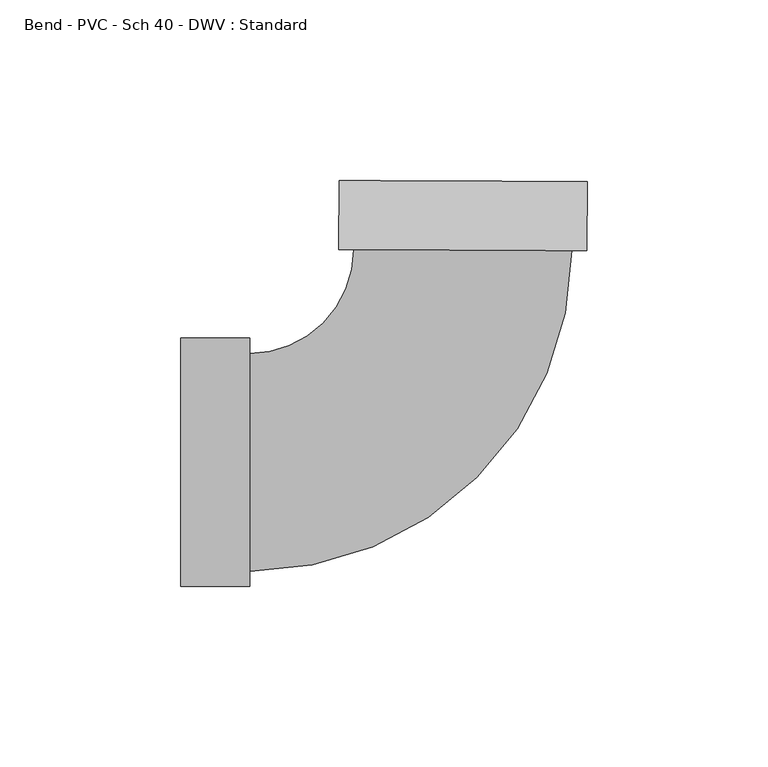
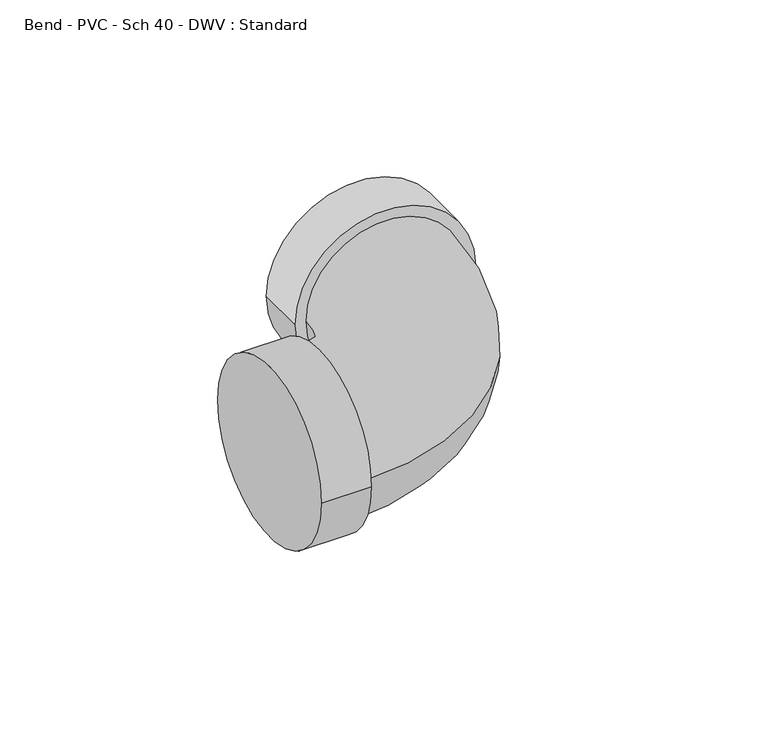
"""IFC4 building model written with IfcOpenShell, lengths in millimetres: pipe fitting geometry, Bend - PVC - Sch 40 - DWV : Standard."""

from ifc_helpers import new_model, si_unit, point, frame, origin, place, context, project, spatial, circle_curve, ellipse_curve, trimmed, source, transform, mapped, element, save
from ifc_brep_helpers import plane_surface, cylinder_surface, revolved_surface, advanced_brep


def bend_pvc_sch_40_dwv_standard_6afe43e3(model_context):
    return source(origin(), model_context, "Body", "AdvancedBrep", [
        advanced_brep(
        [(-77.8002, -34.3154, 0.0), (-77.8002, 34.3154, 0.0), (-58.7502, -34.3154, 0.0), (-58.7502, 34.3154, 0.0), (-58.7502, -30.1625, 0.0), (-58.7502, 30.1625, 0.0), (-29.8812336, 58.8937542, 0.0), (30.4430768, 58.6053025, 0.0), (34.5959293, 58.5854449, 0.0), (-34.0340861, 58.9136119, 0.0), (34.6870193, 77.6352271, 0.0), (-33.9429961, 77.9633941, 0.0)],
        [
            (0, 1, circle_curve(frame((-77.8002, 0.0, 0.0), z_axis=(-1.0, 0.0, 0.0), x_axis=(0.0, 1.0, 0.0)), 34.3154)),
            (1, 0, circle_curve(frame((-77.8002, 0.0, 0.0), z_axis=(-1.0, 0.0, 0.0), x_axis=(0.0, 1.0, 0.0)), 34.3154)),
            (2, 3, circle_curve(frame((-58.7502, 0.0, 0.0), z_axis=(1.0, 0.0, 0.0), x_axis=(0.0, 1.0, 0.0)), 34.3154)),
            (3, 2, circle_curve(frame((-58.7502, 0.0, 0.0), z_axis=(1.0, 0.0, 0.0), x_axis=(0.0, 1.0, 0.0)), 34.3154)),
            (4, 5, circle_curve(frame((-58.7502, 0.0, 0.0), z_axis=(-1.0, 0.0, 0.0), x_axis=(0.0, 1.0, 0.0)), 30.1625)),
            (5, 4, circle_curve(frame((-58.7502, 0.0, 0.0), z_axis=(-1.0, 0.0, 0.0), x_axis=(0.0, 1.0, 0.0)), 30.1625)),
            (0, 2),
            (3, 1),
            (6, 5, circle_curve(frame((-58.7502, 59.0317965, 0.0), z_axis=(0.0, 0.0, -1.0), x_axis=(0.0, -1.0, 0.0)), 28.8692965)),
            (4, 7, circle_curve(frame((-58.7502, 59.0317965, 0.0), z_axis=(0.0, 0.0, 1.0), x_axis=(0.0, -1.0, 0.0)), 89.1942965)),
            (7, 6, circle_curve(frame((0.2809216, 58.7495284, 0.0), z_axis=(-0.004781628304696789, -0.999988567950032, 0.0), x_axis=(-0.999988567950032, 0.004781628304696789, 0.0)), 30.1625)),
            (6, 7, circle_curve(frame((0.2809216, 58.7495284, 0.0), z_axis=(-0.004781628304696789, -0.999988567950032, 0.0), x_axis=(-0.999988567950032, 0.004781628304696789, 0.0)), 30.1625)),
            (8, 9, circle_curve(frame((0.2809216, 58.7495284, 0.0), z_axis=(-0.004781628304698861, -0.999988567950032, 0.0), x_axis=(-0.999988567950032, 0.004781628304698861, 0.0)), 34.3154)),
            (9, 8, circle_curve(frame((0.2809216, 58.7495284, 0.0), z_axis=(-0.004781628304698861, -0.999988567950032, 0.0), x_axis=(-0.999988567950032, 0.004781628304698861, 0.0)), 34.3154)),
            (10, 11, circle_curve(frame((0.3720116, 77.7993106, 0.0), z_axis=(0.004781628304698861, 0.999988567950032, 0.0), x_axis=(-0.999988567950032, 0.004781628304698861, 0.0)), 34.3154)),
            (11, 10, circle_curve(frame((0.3720116, 77.7993106, 0.0), z_axis=(0.004781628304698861, 0.999988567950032, 0.0), x_axis=(-0.999988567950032, 0.004781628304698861, 0.0)), 34.3154)),
            (8, 10),
            (11, 9),
        ],
        [
            plane_surface(frame((-77.8002, 0.0, 0.0), z_axis=(-1.0, 0.0, 0.0), x_axis=(0.0, 0.0, 1.0))),
            plane_surface(frame((-58.7502, 0.0, 0.0), z_axis=(1.0, 0.0, 0.0), x_axis=(0.0, 0.0, 1.0))),
            cylinder_surface(frame((-77.8002, 0.0, 0.0), z_axis=(-1.0, 0.0, 0.0), x_axis=(0.0, 1.0, 0.0)), 34.3154),
            revolved_surface(trimmed(ellipse_curve(frame((-58.7502, 0.0, 0.0), z_axis=(-1.0, 0.0, 0.0), x_axis=(0.0, 1.0, 0.0)), 30.1625, 30.1625), [point((-58.7502, -30.1625, 0.0))], [point((-58.7502, 30.1625, 0.0))], True, "CARTESIAN"), (-58.7502, 59.0317965, 0.0), (0.0, 0.0, 1.0)),
            revolved_surface(trimmed(ellipse_curve(frame((-58.7502, 0.0, 0.0), z_axis=(-1.0, 0.0, 0.0), x_axis=(0.0, 1.0, 0.0)), 30.1625, 30.1625), [point((-58.7502, 30.1625, 0.0))], [point((-58.7502, -30.1625, 0.0))], True, "CARTESIAN"), (-58.7502, 59.0317965, 0.0), (0.0, 0.0, 1.0)),
            plane_surface(frame((0.2809216, 58.7495284, 0.0), z_axis=(-0.004781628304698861, -0.999988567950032, 0.0), x_axis=(0.0, 0.0, 1.0))),
            plane_surface(frame((0.3720116, 77.7993106, 0.0), z_axis=(0.004781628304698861, 0.999988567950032, 0.0), x_axis=(0.0, 0.0, 1.0))),
            cylinder_surface(frame((0.2809216, 58.7495284, 0.0), z_axis=(-0.004781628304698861, -0.999988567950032, 0.0), x_axis=(-0.999988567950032, 0.004781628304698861, 0.0)), 34.3154),
        ],
        [
            (0, [[1, 2]]),
            (1, [[3, 4], [5, 6]]),
            (2, [[-1, 7, -4, 8]]),
            (2, [[-2, -8, -3, -7]]),
            (3, [[9, -5, 10, 11]]),
            (4, [[-9, 12, -10, -6]]),
            (5, [[13, 14], [-11, -12]]),
            (6, [[15, 16]]),
            (7, [[-13, 17, -16, 18]]),
            (7, [[-14, -18, -15, -17]]),
        ],
    ),
    ])


if __name__ == "__main__":
    model = new_model("IFC4")
    model_context = context("Model", 3, world=origin())
    ifc_project = project(units=[si_unit("LENGTHUNIT", "METRE", prefix="MILLI")], contexts=[model_context])
    site = spatial("IfcSite", under=ifc_project)
    building = spatial("IfcBuilding", under=site)
    placement = place(None, origin())
    bend_pvc_sch_40_dwv_standard_shape = bend_pvc_sch_40_dwv_standard_6afe43e3(model_context)
    element("IfcPipeFitting", 1, ObjectType="Bend - PVC - Sch 40 - DWV : Standard", at=placement, inside=building, context=model_context, shape_type="MappedRepresentation", body=[
        mapped(bend_pvc_sch_40_dwv_standard_shape, transform((0.0, 0.0, 0.0), x_axis=(1.0, 0.0, 0.0), y_axis=(0.0, 1.0, 0.0), z_axis=(0.0, 0.0, 1.0))),
    ])
    save(model, "model.ifc")
